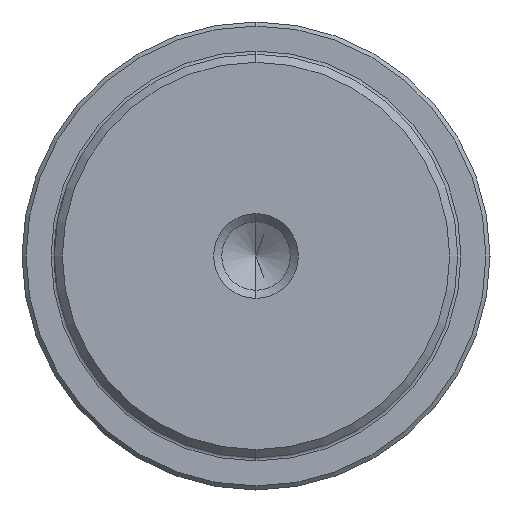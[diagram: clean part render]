
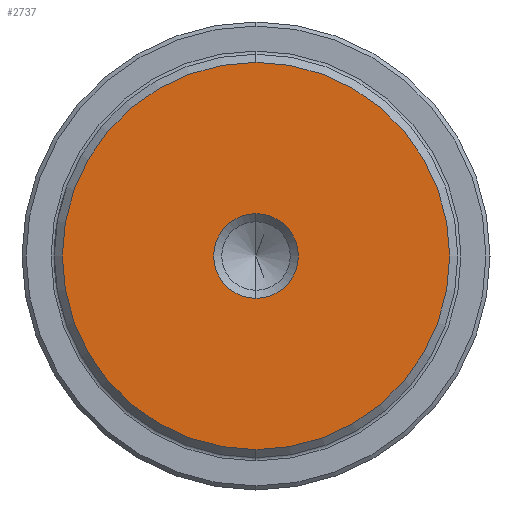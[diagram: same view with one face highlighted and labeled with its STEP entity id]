
A CAD part, left-side view. The second image highlights one B-rep face of the part: STEP entity #2737.
In plain terms, the highlighted planar face has unit normal (-1, 0, 0).
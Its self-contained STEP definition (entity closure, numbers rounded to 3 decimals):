
#42 = PLANE ( 'NONE',  #1020 ) ;
#289 = EDGE_LOOP ( 'NONE', ( #1279, #1273 ) ) ;
#415 = CIRCLE ( 'NONE', #417, 24. ) ;
#417 = AXIS2_PLACEMENT_3D ( 'NONE', #2456, #2461, #2441 ) ;
#490 = EDGE_CURVE ( 'NONE', #2537, #1768, #851, .T. ) ;
#565 = EDGE_CURVE ( 'NONE', #2000, #1341, #846, .T. ) ;
#599 = CIRCLE ( 'NONE', #2045, 5.25 ) ;
#636 = AXIS2_PLACEMENT_3D ( 'NONE', #1904, #1905, #1907 ) ;
#702 = EDGE_LOOP ( 'NONE', ( #1389, #1271 ) ) ;
#846 = CIRCLE ( 'NONE', #636, 24. ) ;
#851 = CIRCLE ( 'NONE', #937, 5.25 ) ;
#937 = AXIS2_PLACEMENT_3D ( 'NONE', #1699, #1700, #1703 ) ;
#989 = EDGE_CURVE ( 'NONE', #1768, #2537, #599, .T. ) ;
#1020 = AXIS2_PLACEMENT_3D ( 'NONE', #2401, #2573, #2389 ) ;
#1069 = FACE_BOUND ( 'NONE', #289, .T. ) ;
#1177 = FACE_OUTER_BOUND ( 'NONE', #702, .T. ) ;
#1271 = ORIENTED_EDGE ( 'NONE', *, *, #1459, .T. ) ;
#1273 = ORIENTED_EDGE ( 'NONE', *, *, #490, .T. ) ;
#1279 = ORIENTED_EDGE ( 'NONE', *, *, #989, .T. ) ;
#1341 = VERTEX_POINT ( 'NONE', #1776 ) ;
#1389 = ORIENTED_EDGE ( 'NONE', *, *, #565, .T. ) ;
#1459 = EDGE_CURVE ( 'NONE', #1341, #2000, #415, .T. ) ;
#1699 = CARTESIAN_POINT ( 'NONE',  ( 0., 0., 0. ) ) ;
#1700 = DIRECTION ( 'NONE',  ( 1., 0., 0. ) ) ;
#1703 = DIRECTION ( 'NONE',  ( 0., 0., -1. ) ) ;
#1768 = VERTEX_POINT ( 'NONE', #1987 ) ;
#1776 = CARTESIAN_POINT ( 'NONE',  ( 0., 0., 24. ) ) ;
#1904 = CARTESIAN_POINT ( 'NONE',  ( 0., 0., 0. ) ) ;
#1905 = DIRECTION ( 'NONE',  ( -1., 0., 0. ) ) ;
#1907 = DIRECTION ( 'NONE',  ( 0., 0., 1. ) ) ;
#1987 = CARTESIAN_POINT ( 'NONE',  ( 0., 0., 5.25 ) ) ;
#2000 = VERTEX_POINT ( 'NONE', #2260 ) ;
#2045 = AXIS2_PLACEMENT_3D ( 'NONE', #2571, #2580, #2584 ) ;
#2260 = CARTESIAN_POINT ( 'NONE',  ( 0., 0., -24. ) ) ;
#2298 = CARTESIAN_POINT ( 'NONE',  ( 0., 0., -5.25 ) ) ;
#2389 = DIRECTION ( 'NONE',  ( 0., 0., -1. ) ) ;
#2401 = CARTESIAN_POINT ( 'NONE',  ( 0., 0., 0. ) ) ;
#2441 = DIRECTION ( 'NONE',  ( 0., 0., 1. ) ) ;
#2456 = CARTESIAN_POINT ( 'NONE',  ( 0., 0., 0. ) ) ;
#2461 = DIRECTION ( 'NONE',  ( -1., 0., 0. ) ) ;
#2537 = VERTEX_POINT ( 'NONE', #2298 ) ;
#2571 = CARTESIAN_POINT ( 'NONE',  ( 0., 0., 0. ) ) ;
#2573 = DIRECTION ( 'NONE',  ( 1., 0., 0. ) ) ;
#2580 = DIRECTION ( 'NONE',  ( 1., 0., 0. ) ) ;
#2584 = DIRECTION ( 'NONE',  ( 0., 0., -1. ) ) ;
#2737 = ADVANCED_FACE ( 'NONE', ( #1069, #1177 ), #42, .F. ) ;
